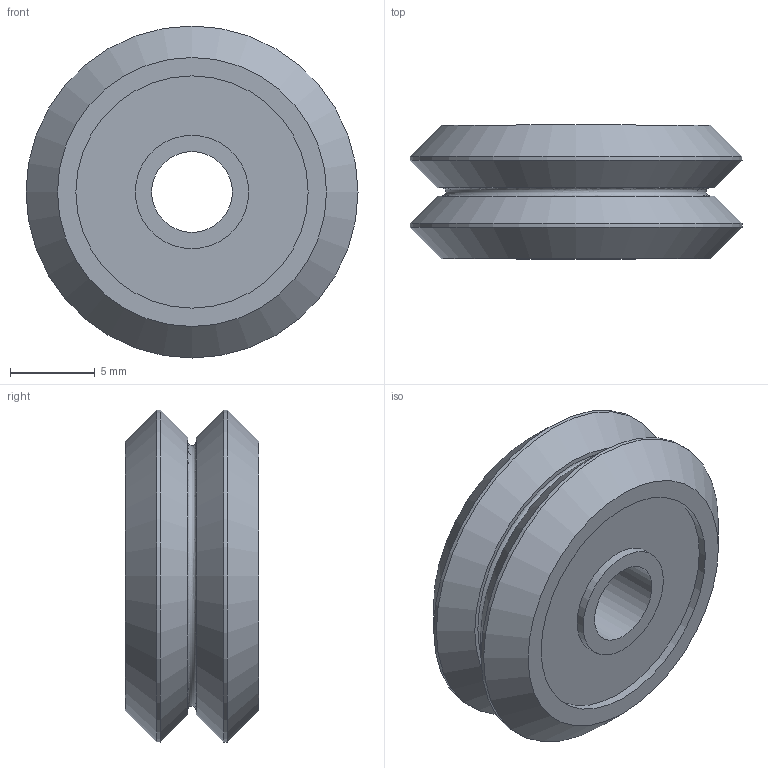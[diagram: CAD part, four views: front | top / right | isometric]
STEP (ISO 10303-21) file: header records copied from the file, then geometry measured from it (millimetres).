
FILE_DESCRIPTION((''),'2;1');
FILE_NAME('C:\Documents and Settings\土屋\My Documents\土屋移動用フォルダ\製品 (図面)\カタログ用3D\リニアガイド\VW\W1UU.stp','2015-02-21T14:01:20',('y'),(''),'Autodesk Inventor 11','Autodesk Inventor 11','');
FILE_SCHEMA(('AUTOMOTIVE_DESIGN { 1 0 10303 214 1 1 1 1 }'));
Length unit declared in the file: millimetre
Products named in the file (1): W1UU
Bounding box: 19.56 x 7.87 x 19.56 mm (x, y, z)
Volume: 1708.3 mm3; surface area: 1180.4 mm2
Topology: 1 solids, 1 shells, 20 faces, 32 edges, 20 vertices
Faces by surface type: plane 8, cylinder 7, cone 4, bspline 1
Full cylindrical faces by diameter (mm): 4.762 x1, 6.68 x2, 13.68 x2, 19.56 x2
Entity records: 507 total; most frequent: CARTESIAN_POINT 141, DIRECTION 80, AXIS2_PLACEMENT_3D 40, ORIENTED_EDGE 40, EDGE_LOOP 40, VERTEX_POINT 20, CIRCLE 20, EDGE_CURVE 20
